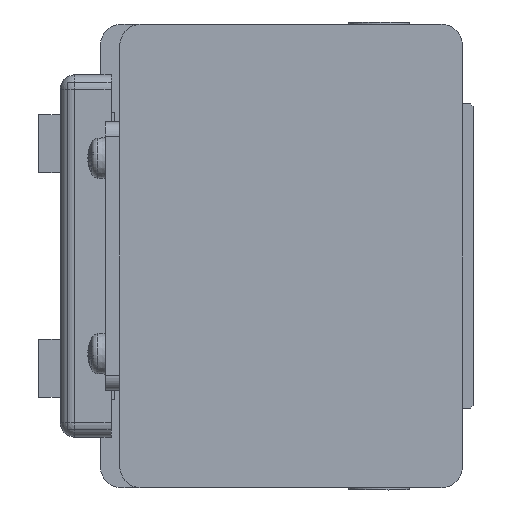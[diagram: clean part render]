
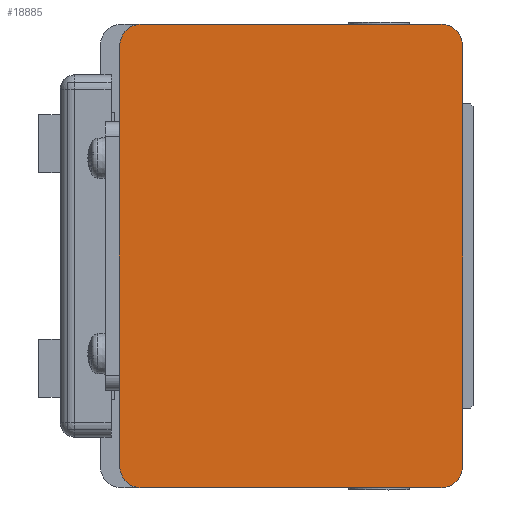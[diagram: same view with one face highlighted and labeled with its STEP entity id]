
A CAD part, left-side view. The second image highlights one B-rep face of the part: STEP entity #18885.
In plain terms, the highlighted planar face has unit normal (-1, 0, 0) as drawn and (0, 0, -1) by its records, which use the part's own axes.
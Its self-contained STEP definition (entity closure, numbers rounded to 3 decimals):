
#779=LINE('',#26643,#2431);
#794=LINE('',#26685,#2446);
#839=LINE('',#26794,#2491);
#861=LINE('',#26863,#2513);
#874=LINE('',#26898,#2526);
#875=LINE('',#26901,#2527);
#876=LINE('',#26902,#2528);
#877=LINE('',#26907,#2529);
#2431=VECTOR('',#21769,19.);
#2446=VECTOR('',#21802,41.3);
#2491=VECTOR('',#21891,41.3);
#2513=VECTOR('',#21951,19.);
#2526=VECTOR('',#21986,0.1);
#2527=VECTOR('',#21989,20.);
#2528=VECTOR('',#21990,0.1);
#2529=VECTOR('',#21995,58.);
#4232=PLANE('',#20107);
#5036=FACE_OUTER_BOUND('',#6140,.T.);
#6140=EDGE_LOOP('',(#12686,#12687,#12688,#12689,#12690,#12691,#12692,#12693,
#12694,#12695,#12696,#12697));
#7376=CIRCLE('',#20108,3.);
#7377=CIRCLE('',#20109,3.);
#7378=CIRCLE('',#20110,3.);
#7379=CIRCLE('',#20111,3.);
#7921=VERTEX_POINT('',#26640);
#7922=VERTEX_POINT('',#26642);
#7939=VERTEX_POINT('',#26682);
#7940=VERTEX_POINT('',#26684);
#7981=VERTEX_POINT('',#26791);
#7982=VERTEX_POINT('',#26793);
#8009=VERTEX_POINT('',#26860);
#8010=VERTEX_POINT('',#26862);
#8021=VERTEX_POINT('',#26896);
#8022=VERTEX_POINT('',#26900);
#8023=VERTEX_POINT('',#26904);
#8024=VERTEX_POINT('',#26906);
#9770=EDGE_CURVE('',#7922,#7921,#779,.T.);
#9791=EDGE_CURVE('',#7940,#7939,#794,.T.);
#9846=EDGE_CURVE('',#7982,#7981,#839,.T.);
#9880=EDGE_CURVE('',#8010,#8009,#861,.T.);
#9899=EDGE_CURVE('',#8021,#7921,#874,.T.);
#9900=EDGE_CURVE('',#8022,#8021,#875,.T.);
#9901=EDGE_CURVE('',#8010,#8022,#876,.T.);
#9902=EDGE_CURVE('',#8009,#7982,#7376,.T.);
#9903=EDGE_CURVE('',#7981,#8023,#7377,.T.);
#9904=EDGE_CURVE('',#8023,#8024,#877,.T.);
#9905=EDGE_CURVE('',#8024,#7940,#7378,.T.);
#9906=EDGE_CURVE('',#7939,#7922,#7379,.T.);
#12686=ORIENTED_EDGE('',*,*,#9770,.T.);
#12687=ORIENTED_EDGE('',*,*,#9899,.F.);
#12688=ORIENTED_EDGE('',*,*,#9900,.F.);
#12689=ORIENTED_EDGE('',*,*,#9901,.F.);
#12690=ORIENTED_EDGE('',*,*,#9880,.T.);
#12691=ORIENTED_EDGE('',*,*,#9902,.T.);
#12692=ORIENTED_EDGE('',*,*,#9846,.T.);
#12693=ORIENTED_EDGE('',*,*,#9903,.T.);
#12694=ORIENTED_EDGE('',*,*,#9904,.T.);
#12695=ORIENTED_EDGE('',*,*,#9905,.T.);
#12696=ORIENTED_EDGE('',*,*,#9791,.T.);
#12697=ORIENTED_EDGE('',*,*,#9906,.T.);
#18885=ADVANCED_FACE('',(#5036),#4232,.F.);
#20107=AXIS2_PLACEMENT_3D('',#26899,#21987,#21988);
#20108=AXIS2_PLACEMENT_3D('',#26903,#21991,#21992);
#20109=AXIS2_PLACEMENT_3D('',#26905,#21993,#21994);
#20110=AXIS2_PLACEMENT_3D('',#26908,#21996,#21997);
#20111=AXIS2_PLACEMENT_3D('',#26909,#21998,#21999);
#21769=DIRECTION('',(1.,0.,0.));
#21802=DIRECTION('',(0.,1.,0.));
#21891=DIRECTION('',(0.,-1.,0.));
#21951=DIRECTION('',(1.,0.,0.));
#21986=DIRECTION('',(0.,-1.,0.));
#21987=DIRECTION('center_axis',(0.,0.,1.));
#21988=DIRECTION('ref_axis',(1.,0.,0.));
#21989=DIRECTION('',(-1.,0.,0.));
#21990=DIRECTION('',(0.,1.,0.));
#21991=DIRECTION('center_axis',(0.,0.,-1.));
#21992=DIRECTION('ref_axis',(-1.,0.,0.));
#21993=DIRECTION('center_axis',(0.,0.,-1.));
#21994=DIRECTION('ref_axis',(0.,1.,0.));
#21995=DIRECTION('',(-1.,0.,0.));
#21996=DIRECTION('center_axis',(0.,0.,-1.));
#21997=DIRECTION('ref_axis',(1.,0.,0.));
#21998=DIRECTION('center_axis',(0.,0.,-1.));
#21999=DIRECTION('ref_axis',(0.,-1.,0.));
#26640=CARTESIAN_POINT('',(22.,48.8,-392.));
#26642=CARTESIAN_POINT('',(3.,48.8,-392.));
#26643=CARTESIAN_POINT('',(3.,48.8,-392.));
#26682=CARTESIAN_POINT('',(0.,45.8,-392.));
#26684=CARTESIAN_POINT('',(0.,4.5,-392.));
#26685=CARTESIAN_POINT('',(0.,4.5,-392.));
#26791=CARTESIAN_POINT('',(64.,4.5,-392.));
#26793=CARTESIAN_POINT('',(64.,45.8,-392.));
#26794=CARTESIAN_POINT('',(64.,45.8,-392.));
#26860=CARTESIAN_POINT('',(61.,48.8,-392.));
#26862=CARTESIAN_POINT('',(42.,48.8,-392.));
#26863=CARTESIAN_POINT('',(42.,48.8,-392.));
#26896=CARTESIAN_POINT('',(22.,48.9,-392.));
#26898=CARTESIAN_POINT('',(22.,48.9,-392.));
#26899=CARTESIAN_POINT('Origin',(32.,25.15,-392.));
#26900=CARTESIAN_POINT('',(42.,48.9,-392.));
#26901=CARTESIAN_POINT('',(42.,48.9,-392.));
#26902=CARTESIAN_POINT('',(42.,48.8,-392.));
#26903=CARTESIAN_POINT('Origin',(61.,45.8,-392.));
#26904=CARTESIAN_POINT('',(61.,1.5,-392.));
#26905=CARTESIAN_POINT('Origin',(61.,4.5,-392.));
#26906=CARTESIAN_POINT('',(3.,1.5,-392.));
#26907=CARTESIAN_POINT('',(61.,1.5,-392.));
#26908=CARTESIAN_POINT('Origin',(3.,4.5,-392.));
#26909=CARTESIAN_POINT('Origin',(3.,45.8,-392.));
